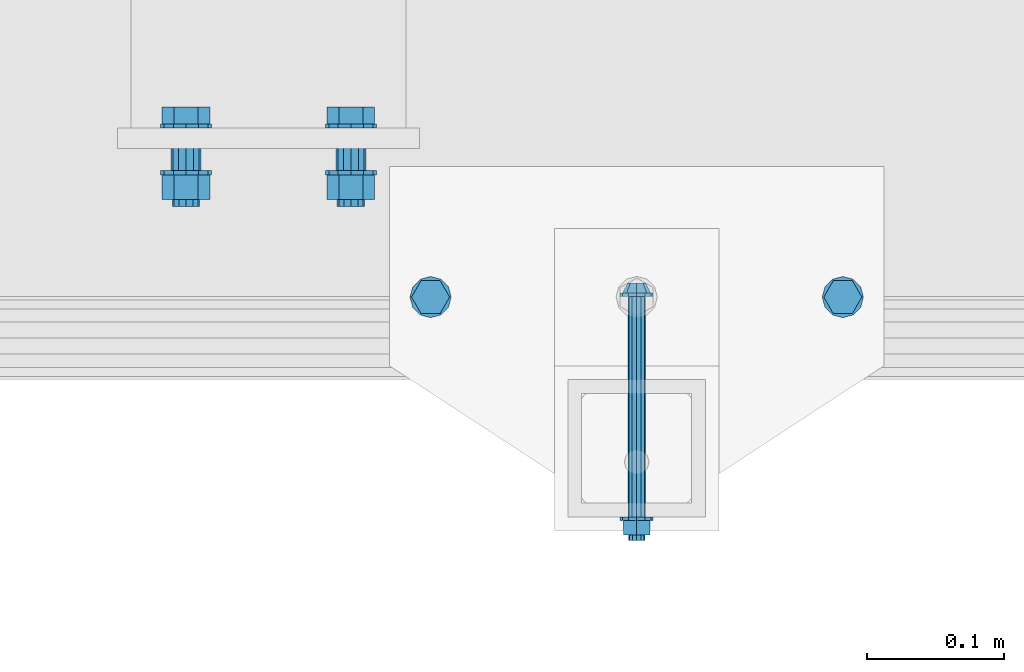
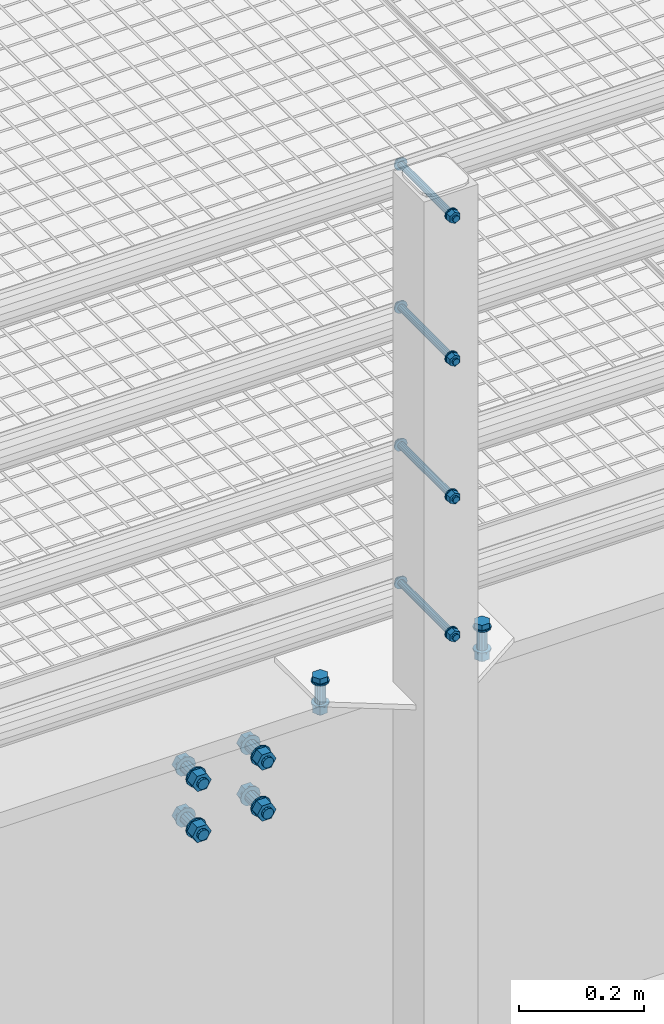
# One storey, part 21 of 1530: 6 mechanical fasteners.
"""IFC2X3 building model written with IfcOpenShell, lengths in millimetres."""

from ifc_helpers import new_model, si_unit, frame, origin_with_axes, place, context, subcontext, project, spatial, faceted_brep, source, transform, mapped, material, type_object, element, save


model = new_model("IFC2X3")

# Units and contexts
model_context = context("Model", 3, precision=1e-05, world=origin_with_axes())
body_context = subcontext(model_context, "Body", "Model", "MODEL_VIEW")
ifc_project = project(units=[si_unit("LENGTHUNIT", "METRE", prefix="MILLI"), si_unit("AREAUNIT", "SQUARE_METRE"), si_unit("VOLUMEUNIT", "CUBIC_METRE"), si_unit("MASSUNIT", "GRAM", prefix="KILO"), si_unit("TIMEUNIT", "SECOND"), si_unit("PLANEANGLEUNIT", "RADIAN"), si_unit("SOLIDANGLEUNIT", "STERADIAN"), si_unit("THERMODYNAMICTEMPERATUREUNIT", "DEGREE_CELSIUS"), si_unit("LUMINOUSINTENSITYUNIT", "LUMEN")], contexts=[model_context])

# Site, building, storey
site_placement = place(None, origin_with_axes())
site = spatial("IfcSite", under=ifc_project, at=site_placement, Name="Brattvåg", CompositionType="ELEMENT")
building_placement = place(site_placement, origin_with_axes())
building = spatial("IfcBuilding", under=site, at=building_placement, Name="Undefined", CompositionType="ELEMENT")
storey_placement = place(building_placement, origin_with_axes())
storey = spatial("IfcBuildingStorey", under=building, at=storey_placement, Name="Undefined", CompositionType="ELEMENT", Elevation=0.0)

# Mechanical fasteners
ifc_material = material(Name="8")
mechanical_fastener_type = type_object("IfcMechanicalFastenerType", Name="Bolt assembly")
shared_shape_1 = source(origin_with_axes(), body_context, "Body", "Brep", [
    faceted_brep([(6.49435320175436, -9.99984019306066, 0.0), (4.59220118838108, -9.99984019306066, 4.59220118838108), (3.97664443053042e-16, -9.99984019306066, 6.49435320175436), (-4.59220118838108, -9.99984019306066, 4.59220118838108), (-6.49435320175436, -9.99984019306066, 7.95328886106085e-16), (-4.59220118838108, -9.99984019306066, -4.59220118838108), (-1.19299332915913e-15, -9.99984019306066, -6.49435320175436), (4.59220118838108, -9.99984019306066, -4.59220118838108), (7.34846922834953, -2.49984019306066, -7.34846922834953), (-1.90903542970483e-15, -2.49984019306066, -10.3923048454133), (-7.34846922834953, -2.49984019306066, -7.34846922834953), (-10.3923048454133, -2.49984019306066, 1.27269028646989e-15), (-7.34846922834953, -2.49984019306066, 7.34846922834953), (6.36345143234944e-16, -2.49984019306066, 10.3923048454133), (7.34846922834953, -2.49984019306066, 7.34846922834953), (10.3923048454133, -2.49984019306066, 0.0), (6.0, -2.49984019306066, 0.0), (5.19615242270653, -2.49984019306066, 3.00000000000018), (2.99999999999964, -2.49984019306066, 5.19615242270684), (-6.21801588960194e-13, -2.49984019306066, 6.0), (-3.00000000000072, -2.49984019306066, 5.19615242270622), (-5.19615242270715, -2.49984019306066, 2.9999999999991), (-6.0, -2.49984019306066, -1.24360317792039e-12), (-5.19615242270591, -2.49984019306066, -3.00000000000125), (-2.99999999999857, -2.49984019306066, -5.19615242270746), (1.85874342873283e-12, -2.49984019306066, -6.0), (3.00000000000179, -2.49984019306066, -5.1961524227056), (5.19615242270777, -2.49984019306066, -2.99999999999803), (5.19615242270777, 177.500159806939, -2.99999999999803), (3.00000000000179, 177.500159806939, -5.1961524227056), (1.85874342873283e-12, 177.500159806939, -6.0), (-2.99999999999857, 177.500159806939, -5.19615242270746), (-5.19615242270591, 177.500159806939, -3.00000000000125), (-6.0, 177.500159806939, -1.24360317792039e-12), (-5.19615242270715, 177.500159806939, 2.9999999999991), (-3.00000000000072, 177.500159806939, 5.19615242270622), (-6.21801588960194e-13, 177.500159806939, 6.0), (2.99999999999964, 177.500159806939, 5.19615242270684), (5.19615242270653, 177.500159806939, 3.00000000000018), (6.0, 177.500159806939, 0.0), (12.0, -2.49984019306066, 0.0), (10.3923048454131, -2.49984019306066, 6.00000000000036), (5.99999999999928, -2.49984019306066, 10.3923048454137), (-1.24360317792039e-12, -2.49984019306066, 12.0), (-6.00000000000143, -2.49984019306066, 10.3923048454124), (-10.3923048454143, -2.49984019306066, 5.99999999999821), (-12.0, -2.49984019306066, -2.48720635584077e-12), (-10.3923048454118, -2.49984019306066, -6.00000000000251), (-5.99999999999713, -2.49984019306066, -10.3923048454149), (3.71748685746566e-12, -2.49984019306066, -12.0), (6.00000000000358, -2.49984019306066, -10.3923048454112), (10.3923048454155, -2.49984019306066, -5.99999999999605), (10.3923048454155, 0.000159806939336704, -5.99999999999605), (6.00000000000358, 0.000159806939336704, -10.3923048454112), (3.71748685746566e-12, 0.000159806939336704, -12.0), (-5.99999999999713, 0.000159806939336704, -10.3923048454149), (-10.3923048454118, 0.000159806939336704, -6.00000000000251), (-12.0, 0.000159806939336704, -2.48720635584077e-12), (-10.3923048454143, 0.000159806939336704, 5.99999999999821), (-6.00000000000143, 0.000159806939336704, 10.3923048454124), (-1.24360317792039e-12, 0.000159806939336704, 12.0), (5.99999999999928, 0.000159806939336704, 10.3923048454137), (10.3923048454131, 0.000159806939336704, 6.00000000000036), (12.0, 0.000159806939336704, 0.0), (12.0, 160.299998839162, 0.0), (10.3923048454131, 160.299998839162, 6.00000000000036), (5.99999999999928, 160.299998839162, 10.3923048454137), (-1.24360317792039e-12, 160.299998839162, 12.0), (-6.00000000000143, 160.299998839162, 10.3923048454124), (-10.3923048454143, 160.299998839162, 5.99999999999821), (-12.0, 160.299998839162, -2.48720635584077e-12), (-10.3923048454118, 160.299998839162, -6.00000000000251), (-5.99999999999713, 160.299998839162, -10.3923048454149), (3.71748685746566e-12, 160.299998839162, -12.0), (6.00000000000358, 160.299998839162, -10.3923048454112), (10.3923048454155, 160.299998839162, -5.99999999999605), (10.3923048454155, 162.799998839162, -5.99999999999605), (6.00000000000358, 162.799998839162, -10.3923048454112), (3.71748685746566e-12, 162.799998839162, -12.0), (-5.99999999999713, 162.799998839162, -10.3923048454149), (-10.3923048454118, 162.799998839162, -6.00000000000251), (-12.0, 162.799998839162, -2.48720635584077e-12), (-10.3923048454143, 162.799998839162, 5.99999999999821), (-6.00000000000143, 162.799998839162, 10.3923048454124), (-1.24360317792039e-12, 162.799998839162, 12.0), (5.99999999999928, 162.799998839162, 10.3923048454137), (10.3923048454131, 162.799998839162, 6.00000000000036), (12.0, 162.799998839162, 0.0), (10.9696551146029, 162.799998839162, 0.0), (5.48482755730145, 162.799998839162, 9.5), (-5.48482755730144, 162.799998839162, 9.5), (-10.9696551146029, 162.799998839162, 1.34339530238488e-15), (-5.48482755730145, 162.799998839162, -9.5), (5.48482755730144, 162.799998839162, -9.5), (5.48482755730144, 173.599999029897, -9.5), (-5.48482755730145, 173.599999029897, -9.5), (-10.9696551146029, 173.599999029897, 1.34339530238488e-15), (-5.48482755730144, 173.599999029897, 9.5), (5.48482755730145, 173.599999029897, 9.5), (10.9696551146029, 173.599999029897, 0.0)], [[[0, 1, 2, 3, 4, 5, 6, 7]], [[8, 9, 10, 11, 12, 13, 14, 15]], [[0, 15, 14, 1]], [[1, 14, 13, 2]], [[2, 13, 12, 3]], [[3, 12, 11, 4]], [[4, 11, 10, 5]], [[5, 10, 9, 6]], [[6, 9, 8, 7]], [[7, 8, 15, 0]], [[16, 17, 18, 19, 20, 21, 22, 23, 24, 25, 26, 27]], [[28, 29, 30, 31, 32, 33, 34, 35, 36, 37, 38, 39]], [[16, 39, 38, 17]], [[17, 38, 37, 18]], [[18, 37, 36, 19]], [[19, 36, 35, 20]], [[20, 35, 34, 21]], [[21, 34, 33, 22]], [[22, 33, 32, 23]], [[23, 32, 31, 24]], [[24, 31, 30, 25]], [[25, 30, 29, 26]], [[26, 29, 28, 27]], [[27, 28, 39, 16]], [[40, 41, 42, 43, 44, 45, 46, 47, 48, 49, 50, 51]], [[52, 53, 54, 55, 56, 57, 58, 59, 60, 61, 62, 63]], [[40, 63, 62, 41]], [[41, 62, 61, 42]], [[42, 61, 60, 43]], [[43, 60, 59, 44]], [[44, 59, 58, 45]], [[45, 58, 57, 46]], [[46, 57, 56, 47]], [[47, 56, 55, 48]], [[48, 55, 54, 49]], [[49, 54, 53, 50]], [[50, 53, 52, 51]], [[51, 52, 63, 40]], [[64, 65, 66, 67, 68, 69, 70, 71, 72, 73, 74, 75]], [[76, 77, 78, 79, 80, 81, 82, 83, 84, 85, 86, 87]], [[64, 87, 86, 65]], [[65, 86, 85, 66]], [[66, 85, 84, 67]], [[67, 84, 83, 68]], [[68, 83, 82, 69]], [[69, 82, 81, 70]], [[70, 81, 80, 71]], [[71, 80, 79, 72]], [[72, 79, 78, 73]], [[73, 78, 77, 74]], [[74, 77, 76, 75]], [[75, 76, 87, 64]], [[88, 89, 90, 91, 92, 93]], [[94, 95, 96, 97, 98, 99]], [[88, 99, 98, 89]], [[89, 98, 97, 90]], [[90, 97, 96, 91]], [[91, 96, 95, 92]], [[92, 95, 94, 93]], [[93, 94, 99, 88]]]),
    faceted_brep([(6.5, 0.100159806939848, 0.0), (5.62916512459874, 0.100159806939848, 3.25000000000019), (3.24999999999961, 0.100159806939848, 5.62916512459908), (-6.7361838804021e-13, 0.100159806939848, 6.5), (-3.25000000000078, 0.100159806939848, 5.6291651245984), (-5.62916512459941, 0.100159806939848, 3.24999999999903), (-6.5, 0.100159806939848, -1.34723677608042e-12), (-5.62916512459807, 0.100159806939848, -3.25000000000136), (-3.24999999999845, 0.100159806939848, -5.62916512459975), (2.01363871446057e-12, 0.100159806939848, -6.5), (3.25000000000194, 0.100159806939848, -5.62916512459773), (5.62916512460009, 0.100159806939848, -3.24999999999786), (5.62916512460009, 60.4001552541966, -3.24999999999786), (3.25000000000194, 60.4001552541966, -5.62916512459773), (2.01363871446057e-12, 60.4001552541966, -6.5), (-3.24999999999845, 60.4001552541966, -5.62916512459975), (-5.62916512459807, 60.4001552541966, -3.25000000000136), (-6.5, 60.4001552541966, -1.34723677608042e-12), (-5.62916512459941, 60.4001552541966, 3.24999999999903), (-3.25000000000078, 60.4001552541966, 5.6291651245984), (-6.7361838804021e-13, 60.4001552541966, 6.5), (3.24999999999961, 60.4001552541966, 5.62916512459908), (5.62916512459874, 60.4001552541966, 3.25000000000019), (6.5, 60.4001552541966, 0.0), (6.5, 60.1999988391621, 0.0), (5.62916512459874, 60.1999988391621, 3.25000000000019), (3.24999999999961, 60.1999988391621, 5.62916512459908), (-6.7361838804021e-13, 60.1999988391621, 6.5), (-3.25000000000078, 60.1999988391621, 5.6291651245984), (-5.62916512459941, 60.1999988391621, 3.24999999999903), (-6.5, 60.1999988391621, -1.34723677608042e-12), (-5.62916512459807, 60.1999988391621, -3.25000000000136), (-3.24999999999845, 60.1999988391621, -5.62916512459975), (2.01363871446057e-12, 60.1999988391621, -6.5), (3.25000000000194, 60.1999988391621, -5.62916512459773), (5.62916512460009, 60.1999988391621, -3.24999999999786), (5.62916512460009, 160.299998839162, -3.24999999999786), (3.25000000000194, 160.299998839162, -5.62916512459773), (2.01363871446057e-12, 160.299998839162, -6.5), (-3.24999999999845, 160.299998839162, -5.62916512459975), (-5.62916512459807, 160.299998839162, -3.25000000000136), (-6.5, 160.299998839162, -1.34723677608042e-12), (-5.62916512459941, 160.299998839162, 3.24999999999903), (-3.25000000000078, 160.299998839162, 5.6291651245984), (-6.7361838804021e-13, 160.299998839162, 6.5), (3.24999999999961, 160.299998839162, 5.62916512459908), (5.62916512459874, 160.299998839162, 3.25000000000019), (6.5, 160.299998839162, 0.0)], [[[0, 1, 2, 3, 4, 5, 6, 7, 8, 9, 10, 11]], [[12, 13, 14, 15, 16, 17, 18, 19, 20, 21, 22, 23]], [[0, 23, 22, 1]], [[1, 22, 21, 2]], [[2, 21, 20, 3]], [[3, 20, 19, 4]], [[4, 19, 18, 5]], [[5, 18, 17, 6]], [[6, 17, 16, 7]], [[7, 16, 15, 8]], [[8, 15, 14, 9]], [[9, 14, 13, 10]], [[10, 13, 12, 11]], [[11, 12, 23, 0]], [[24, 25, 26, 27, 28, 29, 30, 31, 32, 33, 34, 35]], [[36, 37, 38, 39, 40, 41, 42, 43, 44, 45, 46, 47]], [[24, 47, 46, 25]], [[25, 46, 45, 26]], [[26, 45, 44, 27]], [[27, 44, 43, 28]], [[28, 43, 42, 29]], [[29, 42, 41, 30]], [[30, 41, 40, 31]], [[31, 40, 39, 32]], [[32, 39, 38, 33]], [[33, 38, 37, 34]], [[34, 37, 36, 35]], [[35, 36, 47, 24]]]),
])
for number, where, z_axis, x_axis, name in (
    (1, (11349.9999999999, -99.6997226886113, 149.550000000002), (-1.0, 1.99999855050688e-09, 0.0), (0.0, 0.0, -1.0), "Bolt assembly"),
    (2, (11349.9999999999, -99.6997226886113, 419.550000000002), (-1.0, 1.99999855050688e-09, 0.0), (0.0, 0.0, -1.0), "Bolt assembly"),
    (3, (11349.9999999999, -99.6997226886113, 689.550000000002), (-1.0, 1.99999855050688e-09, 0.0), (0.0, 0.0, -1.0), "Bolt assembly"),
    (4, (11349.9999999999, -99.6997226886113, 969.550000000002), (-1.0, 1.99999855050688e-09, 0.0), (0.0, 0.0, -1.0), "Bolt assembly"),
):
    element("IfcMechanicalFastener", number, at=place(storey_placement, frame(where, z_axis=z_axis, x_axis=x_axis)), inside=storey, type_object=mechanical_fastener_type, material=ifc_material, Name=name, NominalDiameter=12.0, NominalLength=180.0, context=body_context, shape_type="MappedRepresentation", body=[
        mapped(shared_shape_1, transform((0.0, 0.0, 0.0))),
    ])
shared_shape_2 = source(origin_with_axes(), body_context, "Body", "Brep", [
    faceted_brep([(13.856406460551, -13.0, 0.0), (6.92820323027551, -13.0, 12.0), (-6.92820323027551, -13.0, 12.0), (-13.856406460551, -13.0, 1.69692038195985e-15), (-6.92820323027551, -13.0, -12.0), (6.9282032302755, -13.0, -12.0), (6.9282032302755, -3.0, -12.0), (-6.92820323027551, -3.0, -12.0), (-13.856406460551, -3.0, 1.69692038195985e-15), (-6.92820323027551, -3.0, 12.0), (6.92820323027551, -3.0, 12.0), (13.856406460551, -3.0, 0.0), (8.0, -3.0, 0.0), (6.92820323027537, -3.0, 4.00000000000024), (3.99999999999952, -3.0, 6.92820323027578), (-8.29068785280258e-13, -3.0, 8.0), (-4.00000000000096, -3.0, 6.92820323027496), (-6.9282032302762, -3.0, 3.99999999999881), (-8.0, -3.0, -1.65813757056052e-12), (-6.92820323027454, -3.0, -4.00000000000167), (-3.99999999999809, -3.0, -6.92820323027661), (2.47832457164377e-12, -3.0, -8.0), (4.00000000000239, -3.0, -6.92820323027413), (6.92820323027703, -3.0, -3.99999999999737), (6.92820323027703, 62.0000000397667, -3.99999999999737), (4.00000000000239, 62.0000000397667, -6.92820323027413), (2.47832457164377e-12, 62.0000000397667, -8.0), (-3.99999999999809, 62.0000000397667, -6.92820323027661), (-6.92820323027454, 62.0000000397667, -4.00000000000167), (-8.0, 62.0000000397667, -1.65813757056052e-12), (-6.9282032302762, 62.0000000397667, 3.99999999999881), (-4.00000000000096, 62.0000000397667, 6.92820323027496), (-8.29068785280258e-13, 62.0000000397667, 8.0), (3.99999999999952, 62.0000000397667, 6.92820323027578), (6.92820323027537, 62.0000000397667, 4.00000000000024), (8.0, 62.0000000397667, 0.0), (15.0, -3.0, 0.0), (12.9903810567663, -3.0, 7.50000000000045), (7.4999999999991, -3.0, 12.9903810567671), (-1.55450397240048e-12, -3.0, 15.0), (-7.50000000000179, -3.0, 12.9903810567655), (-12.9903810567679, -3.0, 7.49999999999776), (-15.0, -3.0, -3.10900794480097e-12), (-12.9903810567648, -3.0, -7.50000000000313), (-7.49999999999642, -3.0, -12.9903810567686), (4.64685857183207e-12, -3.0, -15.0), (7.50000000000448, -3.0, -12.990381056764), (12.9903810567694, -3.0, -7.49999999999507), (12.9903810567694, 0.0, -7.49999999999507), (7.50000000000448, 0.0, -12.990381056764), (0.0, 0.0, -15.0), (-7.49999999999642, 0.0, -12.9903810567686), (-12.9903810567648, 0.0, -7.50000000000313), (-15.0, 0.0, -3.10900794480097e-12), (-12.9903810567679, 0.0, 7.49999999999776), (-7.50000000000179, 0.0, 12.9903810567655), (0.0, 0.0, 15.0), (7.4999999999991, 0.0, 12.9903810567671), (12.9903810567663, 0.0, 7.50000000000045), (15.0, 0.0, 0.0), (15.0, 39.9997390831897, 0.0), (12.9903810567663, 39.9997390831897, 7.50000000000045), (7.4999999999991, 39.9997390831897, 12.9903810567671), (-1.55450397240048e-12, 39.9997390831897, 15.0), (-7.50000000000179, 39.9997390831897, 12.9903810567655), (-12.9903810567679, 39.9997390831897, 7.49999999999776), (-15.0, 39.9997390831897, -3.10900794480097e-12), (-12.9903810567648, 39.9997390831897, -7.50000000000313), (-7.49999999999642, 39.9997390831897, -12.9903810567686), (4.64685857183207e-12, 39.9997390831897, -15.0), (7.50000000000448, 39.9997390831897, -12.990381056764), (12.9903810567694, 39.9997390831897, -7.49999999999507), (12.9903810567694, 42.9997390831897, -7.49999999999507), (7.50000000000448, 42.9997390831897, -12.990381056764), (4.64685857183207e-12, 42.9997390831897, -15.0), (-7.49999999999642, 42.9997390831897, -12.9903810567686), (-12.9903810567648, 42.9997390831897, -7.50000000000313), (-15.0, 42.9997390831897, -3.10900794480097e-12), (-12.9903810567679, 42.9997390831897, 7.49999999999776), (-7.50000000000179, 42.9997390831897, 12.9903810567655), (-1.55450397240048e-12, 42.9997390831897, 15.0), (7.4999999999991, 42.9997390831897, 12.9903810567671), (12.9903810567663, 42.9997390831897, 7.50000000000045), (15.0, 42.9997390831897, 0.0), (13.856406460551, 42.9997390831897, 0.0), (6.92820323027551, 42.9997390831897, 12.0), (-6.92820323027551, 42.9997390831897, 12.0), (-13.856406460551, 42.9997390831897, 1.69692038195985e-15), (-6.92820323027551, 42.9997390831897, -12.0), (6.9282032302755, 42.9997390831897, -12.0), (6.9282032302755, 57.7997392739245, -12.0), (-6.92820323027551, 57.7997392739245, -12.0), (-13.856406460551, 57.7997392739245, 1.69692038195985e-15), (-6.92820323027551, 57.7997392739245, 12.0), (6.92820323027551, 57.7997392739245, 12.0), (13.856406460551, 57.7997392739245, 0.0)], [[[0, 1, 2, 3, 4, 5]], [[6, 7, 8, 9, 10, 11]], [[0, 11, 10, 1]], [[1, 10, 9, 2]], [[2, 9, 8, 3]], [[3, 8, 7, 4]], [[4, 7, 6, 5]], [[5, 6, 11, 0]], [[12, 13, 14, 15, 16, 17, 18, 19, 20, 21, 22, 23]], [[24, 25, 26, 27, 28, 29, 30, 31, 32, 33, 34, 35]], [[12, 35, 34, 13]], [[13, 34, 33, 14]], [[14, 33, 32, 15]], [[15, 32, 31, 16]], [[16, 31, 30, 17]], [[17, 30, 29, 18]], [[18, 29, 28, 19]], [[19, 28, 27, 20]], [[20, 27, 26, 21]], [[21, 26, 25, 22]], [[22, 25, 24, 23]], [[23, 24, 35, 12]], [[36, 37, 38, 39, 40, 41, 42, 43, 44, 45, 46, 47]], [[48, 49, 50, 51, 52, 53, 54, 55, 56, 57, 58, 59]], [[36, 59, 58, 37]], [[37, 58, 57, 38]], [[38, 57, 56, 39]], [[39, 56, 55, 40]], [[40, 55, 54, 41]], [[41, 54, 53, 42]], [[42, 53, 52, 43]], [[43, 52, 51, 44]], [[44, 51, 50, 45]], [[45, 50, 49, 46]], [[46, 49, 48, 47]], [[47, 48, 59, 36]], [[60, 61, 62, 63, 64, 65, 66, 67, 68, 69, 70, 71]], [[72, 73, 74, 75, 76, 77, 78, 79, 80, 81, 82, 83]], [[60, 83, 82, 61]], [[61, 82, 81, 62]], [[62, 81, 80, 63]], [[63, 80, 79, 64]], [[64, 79, 78, 65]], [[65, 78, 77, 66]], [[66, 77, 76, 67]], [[67, 76, 75, 68]], [[68, 75, 74, 69]], [[69, 74, 73, 70]], [[70, 73, 72, 71]], [[71, 72, 83, 60]], [[84, 85, 86, 87, 88, 89]], [[90, 91, 92, 93, 94, 95]], [[84, 95, 94, 85]], [[85, 94, 93, 86]], [[86, 93, 92, 87]], [[87, 92, 91, 88]], [[88, 91, 90, 89]], [[89, 90, 95, 84]]]),
    faceted_brep([(9.0, 0.1, 0.0), (7.79422863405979, 0.1, 4.50000000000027), (4.49999999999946, 0.1, 7.79422863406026), (-9.3270238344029e-13, 0.1, 9.0), (-4.50000000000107, 0.1, 7.79422863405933), (-7.79422863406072, 0.1, 4.49999999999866), (-9.0, 0.1, -1.86540476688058e-12), (-7.79422863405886, 0.1, -4.50000000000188), (-4.49999999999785, 0.1, -7.79422863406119), (2.78811514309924e-12, 0.1, -9.0), (4.50000000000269, 0.1, -7.7942286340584), (7.79422863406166, 0.1, -4.49999999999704), (7.79422863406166, 10.1, -4.49999999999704), (4.50000000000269, 10.1, -7.7942286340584), (2.78811514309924e-12, 10.1, -9.0), (-4.49999999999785, 10.1, -7.79422863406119), (-7.79422863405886, 10.1, -4.50000000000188), (-9.0, 10.1, -1.86540476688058e-12), (-7.79422863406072, 10.1, 4.49999999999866), (-4.50000000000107, 10.1, 7.79422863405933), (-9.3270238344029e-13, 10.1, 9.0), (4.49999999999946, 10.1, 7.79422863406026), (7.79422863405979, 10.1, 4.50000000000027), (9.0, 10.1, 0.0), (9.0, 9.8997390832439, 0.0), (7.79422863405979, 9.8997390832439, 4.50000000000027), (4.49999999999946, 9.8997390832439, 7.79422863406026), (-9.3270238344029e-13, 9.8997390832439, 9.0), (-4.50000000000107, 9.8997390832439, 7.79422863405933), (-7.79422863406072, 9.8997390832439, 4.49999999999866), (-9.0, 9.8997390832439, -1.86540476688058e-12), (-7.79422863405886, 9.8997390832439, -4.50000000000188), (-4.49999999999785, 9.8997390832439, -7.79422863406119), (2.78811514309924e-12, 9.8997390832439, -9.0), (4.50000000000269, 9.8997390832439, -7.7942286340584), (7.79422863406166, 9.8997390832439, -4.49999999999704), (7.79422863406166, 39.9997390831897, -4.49999999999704), (4.50000000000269, 39.9997390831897, -7.7942286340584), (2.78811514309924e-12, 39.9997390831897, -9.0), (-4.49999999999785, 39.9997390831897, -7.79422863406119), (-7.79422863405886, 39.9997390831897, -4.50000000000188), (-9.0, 39.9997390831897, -1.86540476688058e-12), (-7.79422863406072, 39.9997390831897, 4.49999999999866), (-4.50000000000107, 39.9997390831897, 7.79422863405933), (-9.3270238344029e-13, 39.9997390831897, 9.0), (4.49999999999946, 39.9997390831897, 7.79422863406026), (7.79422863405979, 39.9997390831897, 4.50000000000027), (9.0, 39.9997390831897, 0.0)], [[[0, 1, 2, 3, 4, 5, 6, 7, 8, 9, 10, 11]], [[12, 13, 14, 15, 16, 17, 18, 19, 20, 21, 22, 23]], [[0, 23, 22, 1]], [[1, 22, 21, 2]], [[2, 21, 20, 3]], [[3, 20, 19, 4]], [[4, 19, 18, 5]], [[5, 18, 17, 6]], [[6, 17, 16, 7]], [[7, 16, 15, 8]], [[8, 15, 14, 9]], [[9, 14, 13, 10]], [[10, 13, 12, 11]], [[11, 12, 23, 0]], [[24, 25, 26, 27, 28, 29, 30, 31, 32, 33, 34, 35]], [[36, 37, 38, 39, 40, 41, 42, 43, 44, 45, 46, 47]], [[24, 47, 46, 25]], [[25, 46, 45, 26]], [[26, 45, 44, 27]], [[27, 44, 43, 28]], [[28, 43, 42, 29]], [[29, 42, 41, 30]], [[30, 41, 40, 31]], [[31, 40, 39, 32]], [[32, 39, 38, 33]], [[33, 38, 37, 34]], [[34, 37, 36, 35]], [[35, 36, 47, 24]]]),
])
mechanical_fastener_1_placement = place(storey_placement, frame((11200.0008086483, -99.9996071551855, 9.99973908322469), z_axis=(0.0, 1.0, 0.0), x_axis=(1.0, 0.0, 0.0)))
element("IfcMechanicalFastener", 5, at=mechanical_fastener_1_placement, inside=storey, type_object=mechanical_fastener_type, material=ifc_material, Name="Bolt assembly", NominalDiameter=16.0, NominalLength=65.0, context=body_context, shape_type="MappedRepresentation", body=[
    mapped(shared_shape_2, transform((0.0, 0.0, 0.0))),
    mapped(shared_shape_2, transform((300.0, 0.0, 0.0))),
])
shared_shape_3 = source(origin_with_axes(), body_context, "Body", "Brep", [
    faceted_brep([(17.3205080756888, -15.5000000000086, 0.0), (8.66025403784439, -15.5000000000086, 15.0), (-8.66025403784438, -15.5000000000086, 15.0), (-17.3205080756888, -15.5000000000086, 2.12115047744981e-15), (-8.66025403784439, -15.5000000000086, -15.0), (8.66025403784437, -15.5000000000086, -15.0), (8.66025403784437, -3.00000000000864, -15.0), (-8.66025403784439, -3.00000000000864, -15.0), (-17.3205080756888, -3.00000000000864, 2.12115047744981e-15), (-8.66025403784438, -3.00000000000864, 15.0), (8.66025403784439, -3.00000000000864, 15.0), (17.3205080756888, -3.00000000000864, 0.0), (10.0, -3.00000000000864, 0.0), (8.66025403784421, -3.00000000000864, 5.0000000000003), (4.9999999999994, -3.00000000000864, 8.66025403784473), (-1.03633598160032e-12, -3.00000000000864, 10.0), (-5.00000000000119, -3.00000000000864, 8.6602540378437), (-8.66025403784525, -3.00000000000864, 4.99999999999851), (-10.0, -3.00000000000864, -2.07267196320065e-12), (-8.66025403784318, -3.00000000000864, -5.00000000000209), (-4.99999999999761, -3.00000000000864, -8.66025403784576), (3.09790571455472e-12, -3.00000000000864, -10.0), (5.00000000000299, -3.00000000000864, -8.66025403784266), (8.66025403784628, -3.00000000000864, -4.99999999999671), (8.66025403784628, 57.0, -4.99999999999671), (5.00000000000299, 57.0, -8.66025403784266), (3.09790571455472e-12, 57.0, -10.0), (-4.99999999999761, 57.0, -8.66025403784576), (-8.66025403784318, 57.0, -5.00000000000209), (-10.0, 57.0, -2.07267196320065e-12), (-8.66025403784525, 57.0, 4.99999999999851), (-5.00000000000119, 57.0, 8.6602540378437), (-1.03633598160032e-12, 57.0, 10.0), (4.9999999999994, 57.0, 8.66025403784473), (8.66025403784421, 57.0, 5.0000000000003), (10.0, 57.0, 0.0), (18.5, -3.00000000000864, 0.0), (16.0214699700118, -3.00000000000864, 9.25000000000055), (9.2499999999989, -3.00000000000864, 16.0214699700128), (-1.9172215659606e-12, -3.00000000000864, 18.5), (-9.25000000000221, -3.00000000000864, 16.0214699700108), (-16.0214699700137, -3.00000000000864, 9.24999999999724), (-18.5, -3.00000000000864, -3.83444313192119e-12), (-16.0214699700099, -3.00000000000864, -9.25000000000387), (-9.24999999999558, -3.00000000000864, -16.0214699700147), (5.73112557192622e-12, -3.00000000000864, -18.5), (9.25000000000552, -3.00000000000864, -16.0214699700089), (16.0214699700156, -3.00000000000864, -9.24999999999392), (16.0214699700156, -8.64019966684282e-12, -9.24999999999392), (9.25000000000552, -8.64019966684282e-12, -16.0214699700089), (5.73112557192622e-12, -8.64019966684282e-12, -18.5), (-9.24999999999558, -8.64019966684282e-12, -16.0214699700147), (-16.0214699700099, -8.64019966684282e-12, -9.25000000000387), (-18.5, -8.64019966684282e-12, -3.83444313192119e-12), (-16.0214699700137, -8.64019966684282e-12, 9.24999999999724), (-9.25000000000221, -8.64019966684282e-12, 16.0214699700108), (-1.9172215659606e-12, -8.64019966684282e-12, 18.5), (9.2499999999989, -8.64019966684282e-12, 16.0214699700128), (16.0214699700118, -8.64019966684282e-12, 9.25000000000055), (18.5, -8.64019966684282e-12, 0.0), (18.5, 31.0015563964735, 0.0), (16.0214699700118, 31.0015563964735, 9.25000000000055), (9.2499999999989, 31.0015563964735, 16.0214699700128), (-1.9172215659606e-12, 31.0015563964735, 18.5), (-9.25000000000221, 31.0015563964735, 16.0214699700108), (-16.0214699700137, 31.0015563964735, 9.24999999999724), (-18.5, 31.0015563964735, -3.83444313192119e-12), (-16.0214699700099, 31.0015563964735, -9.25000000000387), (-9.24999999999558, 31.0015563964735, -16.0214699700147), (5.73112557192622e-12, 31.0015563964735, -18.5), (9.25000000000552, 31.0015563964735, -16.0214699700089), (16.0214699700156, 31.0015563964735, -9.24999999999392), (16.0214699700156, 34.0015563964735, -9.24999999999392), (9.25000000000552, 34.0015563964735, -16.0214699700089), (5.73112557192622e-12, 34.0015563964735, -18.5), (-9.24999999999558, 34.0015563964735, -16.0214699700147), (-16.0214699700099, 34.0015563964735, -9.25000000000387), (-18.5, 34.0015563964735, -3.83444313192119e-12), (-16.0214699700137, 34.0015563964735, 9.24999999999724), (-9.25000000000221, 34.0015563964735, 16.0214699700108), (-1.9172215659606e-12, 34.0015563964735, 18.5), (9.2499999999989, 34.0015563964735, 16.0214699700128), (16.0214699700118, 34.0015563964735, 9.25000000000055), (18.5, 34.0015563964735, 0.0), (17.3205080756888, 34.0015563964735, 0.0), (8.66025403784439, 34.0015563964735, 15.0), (-8.66025403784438, 34.0015563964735, 15.0), (-17.3205080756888, 34.0015563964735, 2.12115047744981e-15), (-8.66025403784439, 34.0015563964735, -15.0), (8.66025403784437, 34.0015563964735, -15.0), (8.66025403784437, 52.0015563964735, -15.0), (-8.66025403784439, 52.0015563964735, -15.0), (-17.3205080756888, 52.0015563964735, 2.12115047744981e-15), (-8.66025403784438, 52.0015563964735, 15.0), (8.66025403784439, 52.0015563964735, 15.0), (17.3205080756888, 52.0015563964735, 0.0)], [[[0, 1, 2, 3, 4, 5]], [[6, 7, 8, 9, 10, 11]], [[0, 11, 10, 1]], [[1, 10, 9, 2]], [[2, 9, 8, 3]], [[3, 8, 7, 4]], [[4, 7, 6, 5]], [[5, 6, 11, 0]], [[12, 13, 14, 15, 16, 17, 18, 19, 20, 21, 22, 23]], [[24, 25, 26, 27, 28, 29, 30, 31, 32, 33, 34, 35]], [[12, 35, 34, 13]], [[13, 34, 33, 14]], [[14, 33, 32, 15]], [[15, 32, 31, 16]], [[16, 31, 30, 17]], [[17, 30, 29, 18]], [[18, 29, 28, 19]], [[19, 28, 27, 20]], [[20, 27, 26, 21]], [[21, 26, 25, 22]], [[22, 25, 24, 23]], [[23, 24, 35, 12]], [[36, 37, 38, 39, 40, 41, 42, 43, 44, 45, 46, 47]], [[48, 49, 50, 51, 52, 53, 54, 55, 56, 57, 58, 59]], [[36, 59, 58, 37]], [[37, 58, 57, 38]], [[38, 57, 56, 39]], [[39, 56, 55, 40]], [[40, 55, 54, 41]], [[41, 54, 53, 42]], [[42, 53, 52, 43]], [[43, 52, 51, 44]], [[44, 51, 50, 45]], [[45, 50, 49, 46]], [[46, 49, 48, 47]], [[47, 48, 59, 36]], [[60, 61, 62, 63, 64, 65, 66, 67, 68, 69, 70, 71]], [[72, 73, 74, 75, 76, 77, 78, 79, 80, 81, 82, 83]], [[60, 83, 82, 61]], [[61, 82, 81, 62]], [[62, 81, 80, 63]], [[63, 80, 79, 64]], [[64, 79, 78, 65]], [[65, 78, 77, 66]], [[66, 77, 76, 67]], [[67, 76, 75, 68]], [[68, 75, 74, 69]], [[69, 74, 73, 70]], [[70, 73, 72, 71]], [[71, 72, 83, 60]], [[84, 85, 86, 87, 88, 89]], [[90, 91, 92, 93, 94, 95]], [[84, 95, 94, 85]], [[85, 94, 93, 86]], [[86, 93, 92, 87]], [[87, 92, 91, 88]], [[88, 91, 90, 89]], [[89, 90, 95, 84]]]),
    faceted_brep([(11.0, 0.1, 0.0), (9.52627944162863, 0.1, 5.50000000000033), (5.49999999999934, 0.1, 9.5262794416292), (-1.13996957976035e-12, 0.1, 11.0), (-5.50000000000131, 0.1, 9.52627944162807), (-9.52627944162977, 0.1, 5.49999999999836), (-11.0, 0.1, -2.27993915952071e-12), (-9.5262794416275, 0.1, -5.5000000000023), (-5.49999999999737, 0.1, -9.52627944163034), (3.40769628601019e-12, 0.1, -11.0), (5.50000000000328, 0.1, -9.52627944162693), (9.52627944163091, 0.1, -5.49999999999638), (9.52627944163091, 15.1, -5.49999999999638), (5.50000000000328, 15.1, -9.52627944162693), (3.40769628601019e-12, 15.1, -11.0), (-5.49999999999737, 15.1, -9.52627944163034), (-9.5262794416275, 15.1, -5.5000000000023), (-11.0, 15.1, -2.27993915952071e-12), (-9.52627944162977, 15.1, 5.49999999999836), (-5.50000000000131, 15.1, 9.52627944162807), (-1.13996957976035e-12, 15.1, 11.0), (5.49999999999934, 15.1, 9.5262794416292), (9.52627944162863, 15.1, 5.50000000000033), (11.0, 15.1, 0.0), (11.0, 14.9015563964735, 0.0), (9.52627944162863, 14.9015563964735, 5.50000000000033), (5.49999999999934, 14.9015563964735, 9.5262794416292), (-1.13996957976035e-12, 14.9015563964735, 11.0), (-5.50000000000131, 14.9015563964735, 9.52627944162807), (-9.52627944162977, 14.9015563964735, 5.49999999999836), (-11.0, 14.9015563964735, -2.27993915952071e-12), (-9.5262794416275, 14.9015563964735, -5.5000000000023), (-5.49999999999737, 14.9015563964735, -9.52627944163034), (3.40769628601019e-12, 14.9015563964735, -11.0), (5.50000000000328, 14.9015563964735, -9.52627944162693), (9.52627944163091, 14.9015563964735, -5.49999999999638), (9.52627944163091, 31.0015563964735, -5.49999999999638), (5.50000000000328, 31.0015563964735, -9.52627944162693), (3.40769628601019e-12, 31.0015563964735, -11.0), (-5.49999999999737, 31.0015563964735, -9.52627944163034), (-9.5262794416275, 31.0015563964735, -5.5000000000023), (-11.0, 31.0015563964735, -2.27993915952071e-12), (-9.52627944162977, 31.0015563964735, 5.49999999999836), (-5.50000000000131, 31.0015563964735, 9.52627944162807), (-1.13996957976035e-12, 31.0015563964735, 11.0), (5.49999999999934, 31.0015563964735, 9.5262794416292), (9.52627944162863, 31.0015563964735, 5.50000000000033), (11.0, 31.0015563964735, 0.0)], [[[0, 1, 2, 3, 4, 5, 6, 7, 8, 9, 10, 11]], [[12, 13, 14, 15, 16, 17, 18, 19, 20, 21, 22, 23]], [[0, 23, 22, 1]], [[1, 22, 21, 2]], [[2, 21, 20, 3]], [[3, 20, 19, 4]], [[4, 19, 18, 5]], [[5, 18, 17, 6]], [[6, 17, 16, 7]], [[7, 16, 15, 8]], [[8, 15, 14, 9]], [[9, 14, 13, 10]], [[10, 13, 12, 11]], [[11, 12, 23, 0]], [[24, 25, 26, 27, 28, 29, 30, 31, 32, 33, 34, 35]], [[36, 37, 38, 39, 40, 41, 42, 43, 44, 45, 46, 47]], [[24, 47, 46, 25]], [[25, 46, 45, 26]], [[26, 45, 44, 27]], [[27, 44, 43, 28]], [[28, 43, 42, 29]], [[29, 42, 41, 30]], [[30, 41, 40, 31]], [[31, 40, 39, 32]], [[32, 39, 38, 33]], [[33, 38, 37, 34]], [[34, 37, 36, 35]], [[35, 36, 47, 24]]]),
])
mechanical_fastener_2_placement = place(storey_placement, frame((11142.0019683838, 23.0015563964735, -219.998836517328), z_axis=(0.0, 0.0, 1.0), x_axis=(-1.0, 1.99999855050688e-09, 0.0)))
element("IfcMechanicalFastener", 6, at=mechanical_fastener_2_placement, inside=storey, type_object=mechanical_fastener_type, material=ifc_material, Name="Bolt assembly", NominalDiameter=20.0, NominalLength=60.0, context=body_context, shape_type="MappedRepresentation", body=[
    mapped(shared_shape_3, transform((0.0, 0.0, -50.0))),
    mapped(shared_shape_3, transform((120.0, 0.0, -50.0))),
    mapped(shared_shape_3, transform((0.0, 0.0, 50.0))),
    mapped(shared_shape_3, transform((120.0, 0.0, 50.0))),
])

save(model, "model.ifc")
